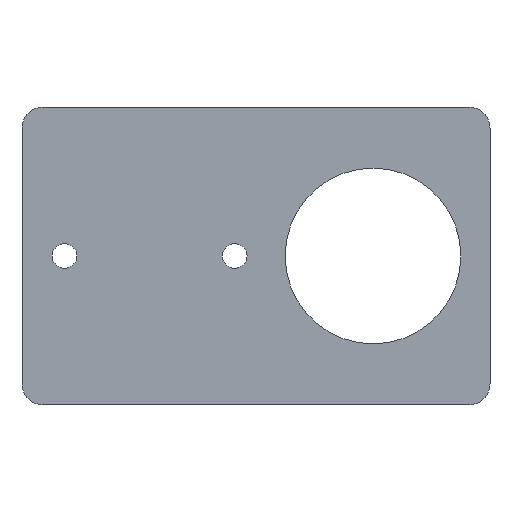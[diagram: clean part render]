
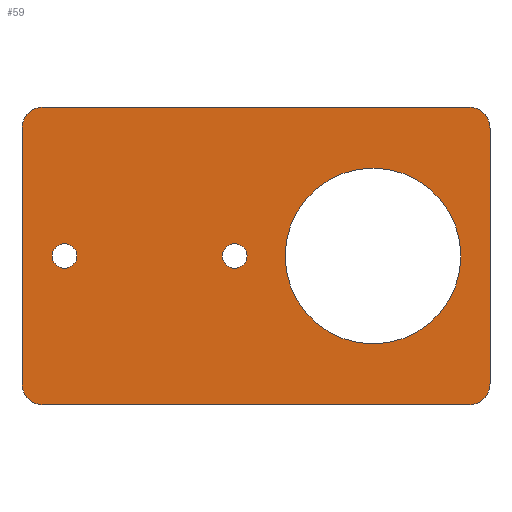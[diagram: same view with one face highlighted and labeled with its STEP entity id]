
A CAD part, front view. The second image highlights one B-rep face of the part: STEP entity #59.
In plain terms, the highlighted planar face has unit normal (0, -1, 0).
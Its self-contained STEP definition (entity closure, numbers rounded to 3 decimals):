
#59 = ADVANCED_FACE( '', ( #116, #117, #118, #119 ), #120, .T. );
#116 = FACE_BOUND( '', #171, .T. );
#117 = FACE_BOUND( '', #172, .T. );
#118 = FACE_BOUND( '', #173, .T. );
#119 = FACE_OUTER_BOUND( '', #174, .T. );
#120 = PLANE( '', #175 );
#171 = EDGE_LOOP( '', ( #266 ) );
#172 = EDGE_LOOP( '', ( #267 ) );
#173 = EDGE_LOOP( '', ( #268 ) );
#174 = EDGE_LOOP( '', ( #269, #270, #271, #272, #273, #274, #275, #276 ) );
#175 = AXIS2_PLACEMENT_3D( '', #277, #278, #279 );
#266 = ORIENTED_EDGE( '', *, *, #319, .F. );
#267 = ORIENTED_EDGE( '', *, *, #322, .F. );
#268 = ORIENTED_EDGE( '', *, *, #297, .F. );
#269 = ORIENTED_EDGE( '', *, *, #301, .T. );
#270 = ORIENTED_EDGE( '', *, *, #326, .T. );
#271 = ORIENTED_EDGE( '', *, *, #334, .T. );
#272 = ORIENTED_EDGE( '', *, *, #315, .T. );
#273 = ORIENTED_EDGE( '', *, *, #332, .T. );
#274 = ORIENTED_EDGE( '', *, *, #306, .T. );
#275 = ORIENTED_EDGE( '', *, *, #329, .T. );
#276 = ORIENTED_EDGE( '', *, *, #310, .T. );
#277 = CARTESIAN_POINT( '', ( 34.925, 0., 22.225 ) );
#278 = DIRECTION( '', ( 0., -1., 0. ) );
#279 = DIRECTION( '', ( 0., 0., -1. ) );
#297 = EDGE_CURVE( '', #341, #341, #342, .T. );
#301 = EDGE_CURVE( '', #349, #347, #350, .T. );
#306 = EDGE_CURVE( '', #358, #356, #359, .T. );
#310 = EDGE_CURVE( '', #364, #349, #365, .T. );
#315 = EDGE_CURVE( '', #373, #371, #374, .T. );
#319 = EDGE_CURVE( '', #379, #379, #380, .T. );
#322 = EDGE_CURVE( '', #384, #384, #385, .T. );
#326 = EDGE_CURVE( '', #347, #389, #391, .T. );
#329 = EDGE_CURVE( '', #356, #364, #394, .T. );
#332 = EDGE_CURVE( '', #371, #358, #397, .T. );
#334 = EDGE_CURVE( '', #389, #373, #399, .T. );
#341 = VERTEX_POINT( '', #406 );
#342 = CIRCLE( '', #407, 1.84 );
#347 = VERTEX_POINT( '', #413 );
#349 = VERTEX_POINT( '', #416 );
#350 = LINE( '', #417, #418 );
#356 = VERTEX_POINT( '', #425 );
#358 = VERTEX_POINT( '', #428 );
#359 = CIRCLE( '', #429, 3.175 );
#364 = VERTEX_POINT( '', #435 );
#365 = CIRCLE( '', #436, 3.175 );
#371 = VERTEX_POINT( '', #443 );
#373 = VERTEX_POINT( '', #446 );
#374 = CIRCLE( '', #447, 3.175 );
#379 = VERTEX_POINT( '', #453 );
#380 = CIRCLE( '', #454, 13.106 );
#384 = VERTEX_POINT( '', #458 );
#385 = CIRCLE( '', #459, 1.84 );
#389 = VERTEX_POINT( '', #463 );
#391 = CIRCLE( '', #466, 3.175 );
#394 = LINE( '', #470, #471 );
#397 = LINE( '', #475, #476 );
#399 = LINE( '', #478, #479 );
#406 = CARTESIAN_POINT( '', ( -3.175, 0., -1.84 ) );
#407 = AXIS2_PLACEMENT_3D( '', #487, #488, #489 );
#413 = CARTESIAN_POINT( '', ( 34.925, 0., 19.05 ) );
#416 = CARTESIAN_POINT( '', ( 34.925, 0., -19.05 ) );
#417 = CARTESIAN_POINT( '', ( 34.925, 0., -22.225 ) );
#418 = VECTOR( '', #492, 1000. );
#425 = CARTESIAN_POINT( '', ( -31.75, 0., -22.225 ) );
#428 = CARTESIAN_POINT( '', ( -34.925, 0., -19.05 ) );
#429 = AXIS2_PLACEMENT_3D( '', #498, #499, #500 );
#435 = CARTESIAN_POINT( '', ( 31.75, 0., -22.225 ) );
#436 = AXIS2_PLACEMENT_3D( '', #505, #506, #507 );
#443 = CARTESIAN_POINT( '', ( -34.925, 0., 19.05 ) );
#446 = CARTESIAN_POINT( '', ( -31.75, 0., 22.225 ) );
#447 = AXIS2_PLACEMENT_3D( '', #513, #514, #515 );
#453 = CARTESIAN_POINT( '', ( 17.463, 0., -13.106 ) );
#454 = AXIS2_PLACEMENT_3D( '', #520, #521, #522 );
#458 = CARTESIAN_POINT( '', ( -28.575, 0., -1.84 ) );
#459 = AXIS2_PLACEMENT_3D( '', #526, #527, #528 );
#463 = CARTESIAN_POINT( '', ( 31.75, 0., 22.225 ) );
#466 = AXIS2_PLACEMENT_3D( '', #533, #534, #535 );
#470 = CARTESIAN_POINT( '', ( -34.925, 0., -22.225 ) );
#471 = VECTOR( '', #537, 1000. );
#475 = CARTESIAN_POINT( '', ( -34.925, 0., 22.225 ) );
#476 = VECTOR( '', #539, 1000. );
#478 = CARTESIAN_POINT( '', ( 34.925, 0., 22.225 ) );
#479 = VECTOR( '', #540, 1000. );
#487 = CARTESIAN_POINT( '', ( -3.175, 0., 0. ) );
#488 = DIRECTION( '', ( 0., -1., 0. ) );
#489 = DIRECTION( '', ( 0., 0., -1. ) );
#492 = DIRECTION( '', ( 0., 0., 1. ) );
#498 = CARTESIAN_POINT( '', ( -31.75, 0., -19.05 ) );
#499 = DIRECTION( '', ( 0., -1., 0. ) );
#500 = DIRECTION( '', ( 0., 0., -1. ) );
#505 = CARTESIAN_POINT( '', ( 31.75, 0., -19.05 ) );
#506 = DIRECTION( '', ( 0., -1., 0. ) );
#507 = DIRECTION( '', ( 0., 0., -1. ) );
#513 = CARTESIAN_POINT( '', ( -31.75, 0., 19.05 ) );
#514 = DIRECTION( '', ( 0., -1., 0. ) );
#515 = DIRECTION( '', ( 0., 0., -1. ) );
#520 = CARTESIAN_POINT( '', ( 17.463, 0., 0. ) );
#521 = DIRECTION( '', ( 0., -1., 0. ) );
#522 = DIRECTION( '', ( 0., 0., -1. ) );
#526 = CARTESIAN_POINT( '', ( -28.575, 0., 0. ) );
#527 = DIRECTION( '', ( 0., -1., 0. ) );
#528 = DIRECTION( '', ( 0., 0., -1. ) );
#533 = CARTESIAN_POINT( '', ( 31.75, 0., 19.05 ) );
#534 = DIRECTION( '', ( 0., -1., 0. ) );
#535 = DIRECTION( '', ( 0., 0., -1. ) );
#537 = DIRECTION( '', ( 1., 0., 0. ) );
#539 = DIRECTION( '', ( 0., 0., -1. ) );
#540 = DIRECTION( '', ( -1., 0., 0. ) );
